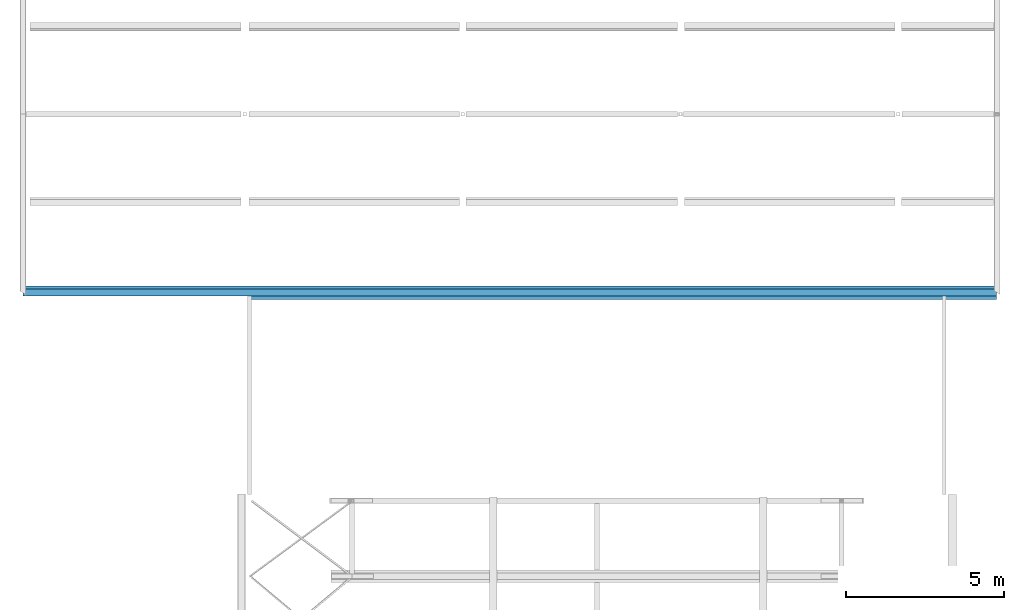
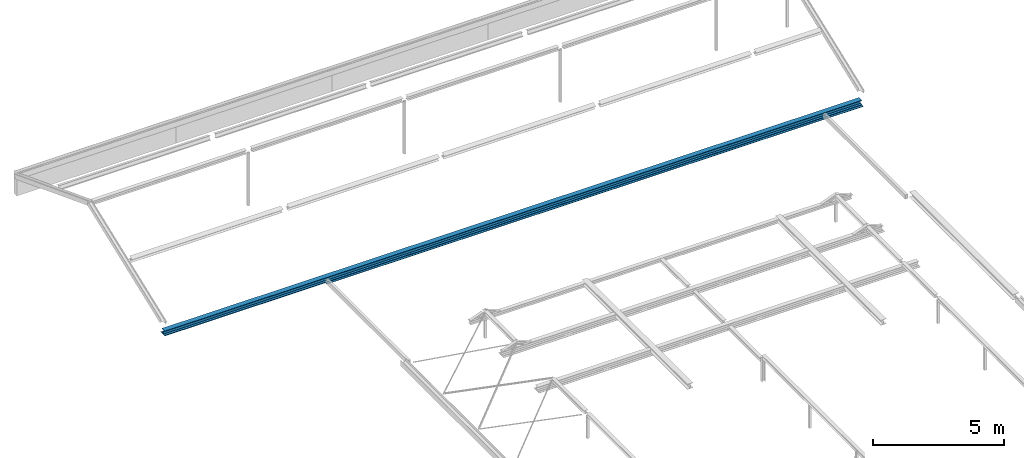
# One storey, part 10 of 10: 1 beam.
"""IFC2X3 building model written with IfcOpenShell, lengths in millimetres."""

from ifc_helpers import new_model, entity, si_unit, converted_unit, derived_unit, direction, frame, origin, place, context, subcontext, project, spatial, faceted_brep, source, transform, mapped, material, type_object, type_shapes, element, save


model = new_model("IFC2X3")

# Units and contexts
model_context = context("Model", 3, precision=0.01, world=origin(), true_north=direction((6.123031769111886e-17, 1.0)))
body_context = subcontext(model_context, "Body", "Model", "MODEL_VIEW")
ifc_project = project(units=[si_unit("LENGTHUNIT", "METRE", prefix="MILLI"), si_unit("AREAUNIT", "SQUARE_METRE", prefix="MILLI"), si_unit("VOLUMEUNIT", "CUBIC_METRE"), converted_unit("PLANEANGLEUNIT", "DEGREE", entity("IfcPlaneAngleMeasure", 0.017453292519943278), si_unit("PLANEANGLEUNIT", "RADIAN"), dimensions=[0, 0, 0, 0, 0, 0, 0]), si_unit("MASSUNIT", "GRAM", prefix="KILO"), derived_unit("MASSDENSITYUNIT", [(si_unit("MASSUNIT", "GRAM", prefix="KILO"), 1), (si_unit("LENGTHUNIT", "METRE"), -3)]), derived_unit("IONCONCENTRATIONUNIT", [(si_unit("MASSUNIT", "GRAM", prefix="KILO"), 1), (si_unit("LENGTHUNIT", "METRE"), -3)]), derived_unit("MOMENTOFINERTIAUNIT", [(si_unit("LENGTHUNIT", "METRE"), 4)]), si_unit("TIMEUNIT", "SECOND"), si_unit("FREQUENCYUNIT", "HERTZ"), si_unit("THERMODYNAMICTEMPERATUREUNIT", "DEGREE_CELSIUS"), derived_unit("THERMALTRANSMITTANCEUNIT", [(si_unit("MASSUNIT", "GRAM", prefix="KILO"), 1), (si_unit("THERMODYNAMICTEMPERATUREUNIT", "KELVIN"), -1), (si_unit("TIMEUNIT", "SECOND"), -3)]), derived_unit("THERMALCONDUCTANCEUNIT", [(si_unit("MASSUNIT", "GRAM", prefix="KILO"), 1), (si_unit("THERMODYNAMICTEMPERATUREUNIT", "KELVIN"), -1), (si_unit("TIMEUNIT", "SECOND"), -3), (si_unit("LENGTHUNIT", "METRE"), 1)]), derived_unit("VOLUMETRICFLOWRATEUNIT", [(si_unit("LENGTHUNIT", "METRE", prefix="DECI"), 3), (si_unit("TIMEUNIT", "SECOND"), -1)]), derived_unit("MASSFLOWRATEUNIT", [(si_unit("MASSUNIT", "GRAM", prefix="KILO"), 1), (si_unit("TIMEUNIT", "SECOND"), -1)]), derived_unit("ROTATIONALFREQUENCYUNIT", [(si_unit("TIMEUNIT", "SECOND"), -1)]), si_unit("ELECTRICCURRENTUNIT", "AMPERE"), si_unit("ELECTRICVOLTAGEUNIT", "VOLT"), si_unit("POWERUNIT", "WATT"), si_unit("FORCEUNIT", "NEWTON", prefix="KILO"), si_unit("ILLUMINANCEUNIT", "LUX"), si_unit("LUMINOUSFLUXUNIT", "LUMEN"), si_unit("LUMINOUSINTENSITYUNIT", "CANDELA"), si_unit("ENERGYUNIT", "JOULE"), derived_unit("USERDEFINED", [(si_unit("MASSUNIT", "GRAM", prefix="KILO"), -1), (si_unit("LENGTHUNIT", "METRE"), -2), (si_unit("TIMEUNIT", "SECOND"), 3), (si_unit("LUMINOUSFLUXUNIT", "LUMEN"), 1)]), derived_unit("USERDEFINED", [(si_unit("MASSUNIT", "GRAM", prefix="KILO"), 1), (si_unit("TIMEUNIT", "SECOND"), -3), (si_unit("LENGTHUNIT", "METRE"), 3), (si_unit("ELECTRICCURRENTUNIT", "AMPERE"), -2)]), derived_unit("SOUNDPOWERUNIT", [(si_unit("MASSUNIT", "GRAM", prefix="KILO"), 1), (si_unit("TIMEUNIT", "SECOND"), -3), (si_unit("LENGTHUNIT", "METRE"), 2)]), derived_unit("SOUNDPRESSUREUNIT", [(si_unit("MASSUNIT", "GRAM", prefix="KILO"), 1), (si_unit("LENGTHUNIT", "METRE"), -1), (si_unit("TIMEUNIT", "SECOND"), -2)]), derived_unit("LINEARVELOCITYUNIT", [(si_unit("LENGTHUNIT", "METRE"), 1), (si_unit("TIMEUNIT", "SECOND"), -1)]), si_unit("PRESSUREUNIT", "PASCAL"), derived_unit("USERDEFINED", [(si_unit("MASSUNIT", "GRAM", prefix="KILO"), 1), (si_unit("LENGTHUNIT", "METRE"), -2), (si_unit("TIMEUNIT", "SECOND"), -2)]), derived_unit("LINEARFORCEUNIT", [(si_unit("MASSUNIT", "GRAM", prefix="KILO"), 1), (si_unit("TIMEUNIT", "SECOND"), -2)]), derived_unit("PLANARFORCEUNIT", [(si_unit("MASSUNIT", "GRAM", prefix="KILO"), 1), (si_unit("LENGTHUNIT", "METRE"), -1), (si_unit("TIMEUNIT", "SECOND"), -2)]), derived_unit("SPECIFICHEATCAPACITYUNIT", [(si_unit("THERMODYNAMICTEMPERATUREUNIT", "KELVIN"), -1), (si_unit("LENGTHUNIT", "METRE"), 2), (si_unit("TIMEUNIT", "SECOND"), -2)]), derived_unit("HEATFLUXDENSITYUNIT", [(si_unit("MASSUNIT", "GRAM", prefix="KILO"), 1), (si_unit("TIMEUNIT", "SECOND"), -3)]), derived_unit("HEATINGVALUEUNIT", [(si_unit("LENGTHUNIT", "METRE"), 2), (si_unit("TIMEUNIT", "SECOND"), -2)]), derived_unit("VAPORPERMEABILITYUNIT", [(si_unit("LENGTHUNIT", "METRE"), -1), (si_unit("TIMEUNIT", "SECOND"), 1)]), derived_unit("DYNAMICVISCOSITYUNIT", [(si_unit("MASSUNIT", "GRAM", prefix="KILO"), 1), (si_unit("TIMEUNIT", "SECOND"), -1), (si_unit("LENGTHUNIT", "METRE"), -1)]), derived_unit("THERMALEXPANSIONCOEFFICIENTUNIT", [(si_unit("THERMODYNAMICTEMPERATUREUNIT", "KELVIN"), -1)]), derived_unit("MODULUSOFELASTICITYUNIT", [(si_unit("MASSUNIT", "GRAM", prefix="KILO"), 1), (si_unit("LENGTHUNIT", "METRE"), -1), (si_unit("TIMEUNIT", "SECOND"), -2)]), derived_unit("ISOTHERMALMOISTURECAPACITYUNIT", [(si_unit("MASSUNIT", "GRAM", prefix="KILO"), -1), (si_unit("LENGTHUNIT", "METRE"), 3)]), derived_unit("MOISTUREDIFFUSIVITYUNIT", [(si_unit("TIMEUNIT", "SECOND"), -1), (si_unit("LENGTHUNIT", "METRE"), 2)]), derived_unit("MASSPERLENGTHUNIT", [(si_unit("MASSUNIT", "GRAM", prefix="KILO"), 1), (si_unit("LENGTHUNIT", "METRE"), -1)]), derived_unit("THERMALRESISTANCEUNIT", [(si_unit("MASSUNIT", "GRAM", prefix="KILO"), -1), (si_unit("TIMEUNIT", "SECOND"), 3), (si_unit("THERMODYNAMICTEMPERATUREUNIT", "KELVIN"), 1)]), derived_unit("ACCELERATIONUNIT", [(si_unit("LENGTHUNIT", "METRE"), 1), (si_unit("TIMEUNIT", "SECOND"), -2)]), derived_unit("ANGULARVELOCITYUNIT", [(si_unit("TIMEUNIT", "SECOND"), -1), (si_unit("PLANEANGLEUNIT", "RADIAN"), 1)]), derived_unit("LINEARSTIFFNESSUNIT", [(si_unit("MASSUNIT", "GRAM", prefix="KILO"), 1), (si_unit("TIMEUNIT", "SECOND"), -2)]), derived_unit("WARPINGCONSTANTUNIT", [(si_unit("LENGTHUNIT", "METRE"), 6)]), derived_unit("LINEARMOMENTUNIT", [(si_unit("MASSUNIT", "GRAM", prefix="KILO"), 1), (si_unit("LENGTHUNIT", "METRE"), 1), (si_unit("TIMEUNIT", "SECOND"), -2)]), derived_unit("TORQUEUNIT", [(si_unit("MASSUNIT", "GRAM", prefix="KILO"), 1), (si_unit("LENGTHUNIT", "METRE"), 2), (si_unit("TIMEUNIT", "SECOND"), -2)])], contexts=[model_context])

# Site, building, storey
site_placement = place(None, origin())
site = spatial("IfcSite", under=ifc_project, at=site_placement, Name="Default", CompositionType="ELEMENT")
building_placement = place(site_placement, origin())
building = spatial("IfcBuilding", under=site, at=building_placement, CompositionType="ELEMENT")
storey_placement = place(building_placement, frame((0.0, 0.0, 11700.0)))
storey = spatial("IfcBuildingStorey", under=building, at=storey_placement, Name="V4 BK metselwerk", CompositionType="ELEMENT", Elevation=11699.999999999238)

# Beam
ifc_material = material(Name="Metal - Steel - S355 JR (standaard-geintegreerde liggers)")
beam_type = type_object("IfcBeamType", Name="btl_staal - SFB:SFB HEB220+420x15", PredefinedType="BEAM", material=ifc_material)
shared_shape = source(origin(), body_context, "Body", "Brep", [
    faceted_brep([(30848.02719495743, 0.0, 15.0), (30848.02719495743, 0.0, 0.0), (30848.02719495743, 420.0, 0.0), (30848.02719495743, 420.0, 15.0), (0.0, 420.0, 15.0), (0.0, 420.0, 0.0), (0.0, 100.0, 0.0), (0.0, 100.0, 15.0), (7118.024359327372, 100.0, 15.0), (7118.024359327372, 0.0, 15.0), (7118.024359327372, 0.0, 0.0), (7118.024359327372, 100.0, 0.0)], [[[0, 1, 2, 3]], [[4, 5, 6, 7]], [[0, 3, 4, 7, 8, 9]], [[3, 2, 5, 4]], [[2, 1, 10, 11, 6, 5]], [[1, 0, 9, 10]], [[8, 11, 10, 9]], [[11, 8, 7, 6]]]),
    faceted_brep([(30848.02719495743, 320.0, 235.0), (30848.02719495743, 100.0, 235.0), (30848.02719495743, 100.0, 219.0), (30848.02719495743, 205.25000000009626, 219.0), (30848.02719495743, 205.25000000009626, 31.0), (30848.02719495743, 100.0, 31.0), (30848.02719495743, 100.0, 15.0), (30848.02719495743, 320.0, 15.0), (30848.02719495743, 320.0, 31.0), (30848.02719495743, 214.7500000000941, 31.0), (30848.02719495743, 214.7500000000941, 219.0), (30848.02719495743, 320.0, 219.0), (0.0, 320.0, 235.0), (0.0, 320.0, 219.0), (0.0, 214.74999999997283, 219.0), (0.0, 214.74999999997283, 31.0), (0.0, 320.0, 31.0), (0.0, 320.0, 15.0), (0.0, 100.0, 15.0), (0.0, 100.0, 31.0), (0.0, 205.249999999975, 31.0), (0.0, 205.249999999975, 219.0), (0.0, 100.0, 219.0), (0.0, 100.0, 235.0)], [[[0, 1, 2, 3, 4, 5, 6, 7, 8, 9, 10, 11]], [[12, 13, 14, 15, 16, 17, 18, 19, 20, 21, 22, 23]], [[11, 13, 12, 0]], [[10, 14, 13, 11]], [[9, 15, 14, 10]], [[8, 16, 15, 9]], [[7, 17, 16, 8]], [[6, 18, 17, 7]], [[5, 19, 18, 6]], [[4, 20, 19, 5]], [[3, 21, 20, 4]], [[2, 22, 21, 3]], [[1, 23, 22, 2]], [[0, 12, 23, 1]]]),
])
type_shapes(beam_type, [shared_shape])
beam_placement = place(storey_placement, frame((-207.0, 31727.57320506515, -1085.0)))
element("IfcBeam", 1, at=beam_placement, inside=storey, type_object=beam_type, material=ifc_material, Name="btl_staal - SFB:SFB HEB220+420x15", ObjectType="btl_staal - SFB:SFB HEB220+420x15", context=body_context, shape_type="MappedRepresentation", body=[
    mapped(shared_shape, transform((0.0, 0.0, 0.0), scale=1.0)),
])

save(model, "model.ifc")
